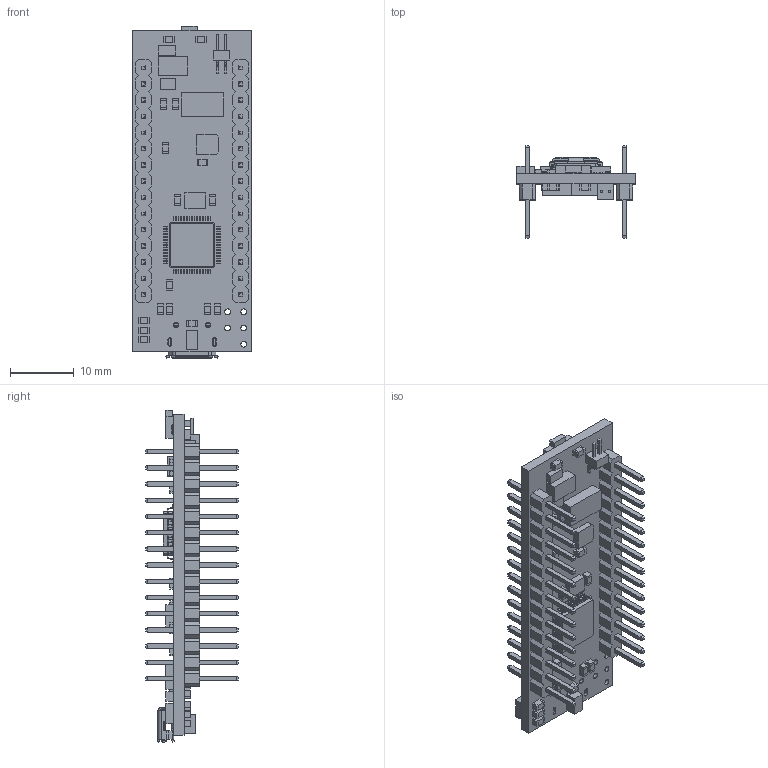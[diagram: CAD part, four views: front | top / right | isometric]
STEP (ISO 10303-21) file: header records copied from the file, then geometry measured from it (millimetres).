
FILE_DESCRIPTION (( 'STEP AP214' ), '1' );
FILE_NAME ('NUCLEO-F303K8.STEP', '2023-02-06T09:00:49', ( '' ), ( '' ), 'SwSTEP 2.0', 'SolidWorks 2021', '' );
FILE_SCHEMA (( 'AUTOMOTIVE_DESIGN' ));
Length unit declared in the file: millimetre
Products named in the file (6): header x2; lqpf1; LD39050PU33R-Nucleo; mb1180c; NUCLEO-F303K8; STM32F103CBT6-nucleo
Assembly tree (5 placements, depth 2):
  NUCLEO-F303K8
    mb1180c
    LD39050PU33R-Nucleo
    STM32F103CBT6-nucleo
    header x2
    lqpf1
Bounding box: 18.55 x 14.5 x 52 mm (x, y, z)
Volume: 2548.8 mm3; surface area: 6196.9 mm2
Topology: 295 solids, 295 shells, 3394 faces, 8104 edges, 5296 vertices
Faces by surface type: plane 2855, cylinder 529, torus 10
Entity records: 101445 total; most frequent: CARTESIAN_POINT 16880, ORIENTED_EDGE 16208, DIRECTION 15948, EDGE_CURVE 8104, LINE 7024, VECTOR 7024, VERTEX_POINT 5296, AXIS2_PLACEMENT_3D 4462
